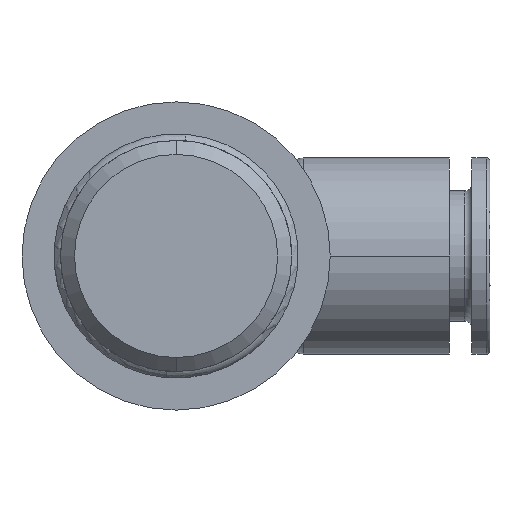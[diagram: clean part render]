
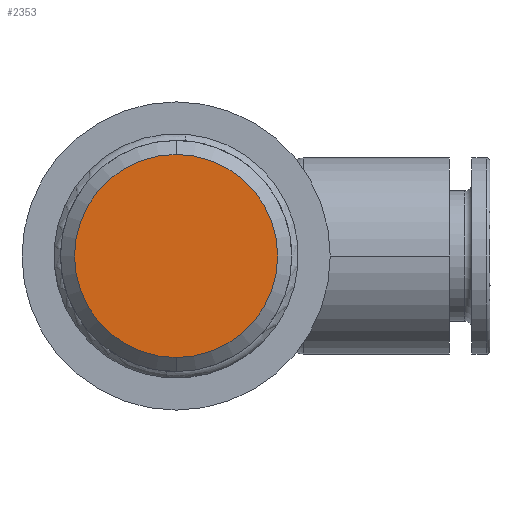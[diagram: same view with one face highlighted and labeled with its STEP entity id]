
A CAD part, front view. The second image highlights one B-rep face of the part: STEP entity #2353.
In plain terms, the highlighted planar face has unit normal (0, -1, 0).
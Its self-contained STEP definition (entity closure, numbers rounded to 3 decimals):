
#2353 = ADVANCED_FACE ( 'NONE', ( #3557 ), #3494, .T. ) ;
#3150 = DIRECTION ( 'NONE',  ( 0., -1., 0. ) ) ;
#3494 = PLANE ( 'NONE',  #12136 ) ;
#3557 = FACE_OUTER_BOUND ( 'NONE', #6253, .T. ) ;
#4085 = CARTESIAN_POINT ( 'NONE',  ( 0., 0., 0. ) ) ;
#4205 = ORIENTED_EDGE ( 'NONE', *, *, #5172, .T. ) ;
#4763 = CIRCLE ( 'NONE', #8579, 7.25 ) ;
#4915 = ORIENTED_EDGE ( 'NONE', *, *, #10265, .T. ) ;
#5172 = EDGE_CURVE ( 'NONE', #8886, #8817, #4763, .T. ) ;
#6253 = EDGE_LOOP ( 'NONE', ( #4915, #4205 ) ) ;
#6501 = CARTESIAN_POINT ( 'NONE',  ( 0., 0., 7.25 ) ) ;
#7091 = DIRECTION ( 'NONE',  ( 0., -1., 0. ) ) ;
#7334 = CARTESIAN_POINT ( 'NONE',  ( 0., 0., 0. ) ) ;
#8579 = AXIS2_PLACEMENT_3D ( 'NONE', #7334, #12601, #11432 ) ;
#8817 = VERTEX_POINT ( 'NONE', #6501 ) ;
#8886 = VERTEX_POINT ( 'NONE', #12024 ) ;
#10232 = AXIS2_PLACEMENT_3D ( 'NONE', #4085, #3150, #12216 ) ;
#10265 = EDGE_CURVE ( 'NONE', #8817, #8886, #10662, .T. ) ;
#10662 = CIRCLE ( 'NONE', #10232, 7.25 ) ;
#11179 = DIRECTION ( 'NONE',  ( 0., 0., -1. ) ) ;
#11432 = DIRECTION ( 'NONE',  ( 0., 0., -1. ) ) ;
#12008 = CARTESIAN_POINT ( 'NONE',  ( 0., 0., 0. ) ) ;
#12024 = CARTESIAN_POINT ( 'NONE',  ( 0., 0., -7.25 ) ) ;
#12136 = AXIS2_PLACEMENT_3D ( 'NONE', #12008, #7091, #11179 ) ;
#12216 = DIRECTION ( 'NONE',  ( 0., 0., -1. ) ) ;
#12601 = DIRECTION ( 'NONE',  ( 0., -1., 0. ) ) ;
